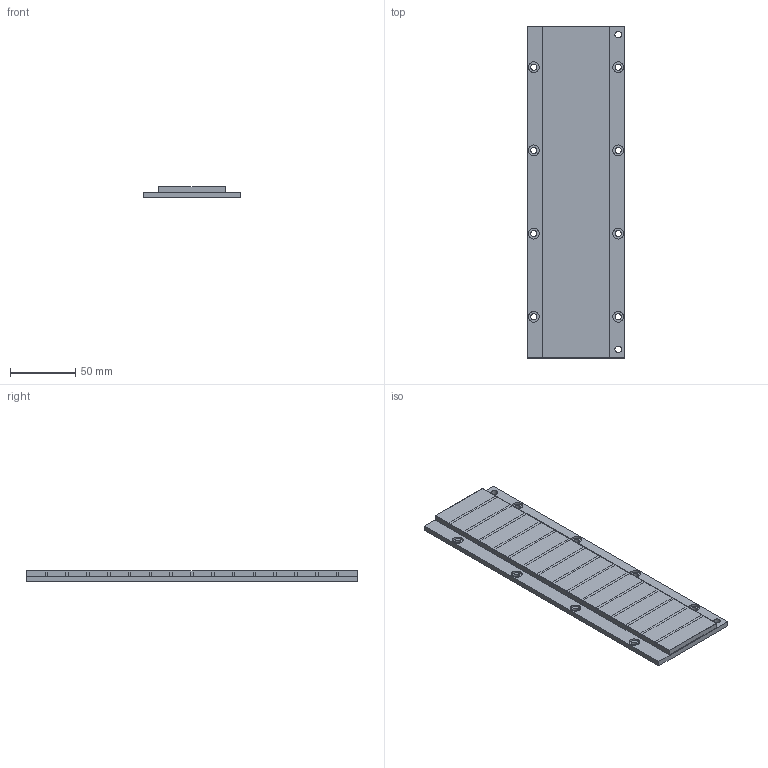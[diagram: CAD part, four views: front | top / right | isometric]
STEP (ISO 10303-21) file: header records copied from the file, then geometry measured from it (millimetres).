
FILE_DESCRIPTION((''),'2;1');
FILE_NAME('MCD050_256_001_','2007-01-13T',('Sendhil_kk'),('Kollmorgen'),'PRO/ENGINEER BY PARAMETRIC TECHNOLOGY CORPORATION, 2006080','PRO/ENGINEER BY PARAMETRIC TECHNOLOGY CORPORATION, 2006080','');
FILE_SCHEMA(('CONFIG_CONTROL_DESIGN'));
Length unit declared in the file: millimetre
Products named in the file (1): MCD050_256_001_
Bounding box: 75 x 255.3 x 8.25 mm (x, y, z)
Volume: 124123.9 mm3; surface area: 79842.5 mm2
Topology: 1 solids, 1 shells, 138 faces, 336 edges, 224 vertices
Faces by surface type: plane 102, cylinder 36
Entity records: 4114 total; most frequent: CARTESIAN_POINT 698, DIRECTION 684, ORIENTED_EDGE 672, EDGE_CURVE 336, VECTOR 264, LINE 264, VERTEX_POINT 224, AXIS2_PLACEMENT_3D 210
